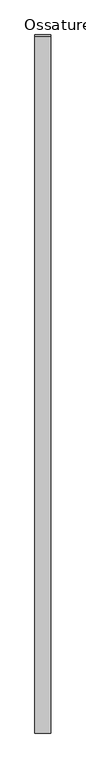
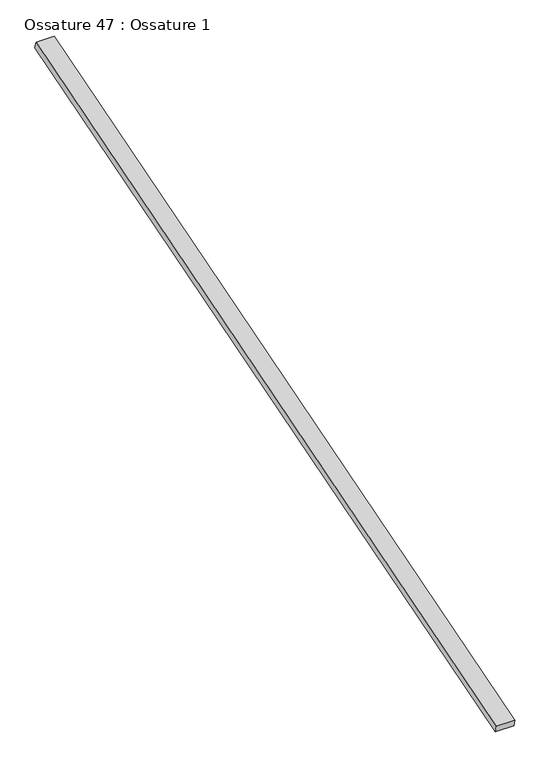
"""IFC4 building model written with IfcOpenShell, lengths in millimetres: beam geometry, Ossature 47 : Ossature 1."""

from ifc_helpers import new_model, si_unit, frame, origin, place, context, project, spatial, polyline, outline, extrude, source, transform, mapped, element, save


def ossature_47_ossature_1_cd9a955e(model_context):
    return source(origin(), model_context, "Body", "SweptSolid", [
        extrude(outline(polyline([(0.0, 0.0), (0.0, -4543.0299679), (-100.0, -4543.0299679), (-100.0, 0.0), (0.0, 0.0)])), frame((11492.2466393, -833.3913565, 8153.6336115), z_axis=(0.0, -0.28734788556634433, 0.9578262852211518), x_axis=(-1.0, 0.0, 0.0)), (0.0, 0.0, 1.0), 40.0),
    ])


if __name__ == "__main__":
    model = new_model("IFC4")
    model_context = context("Model", 3, world=origin())
    ifc_project = project(units=[si_unit("LENGTHUNIT", "METRE", prefix="MILLI")], contexts=[model_context])
    site = spatial("IfcSite", under=ifc_project)
    building = spatial("IfcBuilding", under=site)
    placement = place(None, origin())
    ossature_47_ossature_1_shape = ossature_47_ossature_1_cd9a955e(model_context)
    element("IfcBeam", 1, ObjectType="Ossature 47 : Ossature 1", at=placement, inside=building, context=model_context, shape_type="MappedRepresentation", body=[
        mapped(ossature_47_ossature_1_shape, transform((0.0, 0.0, 0.0), x_axis=(1.0, 0.0, 0.0), y_axis=(0.0, 1.0, 0.0), z_axis=(0.0, 0.0, 1.0))),
    ])
    save(model, "model.ifc")
